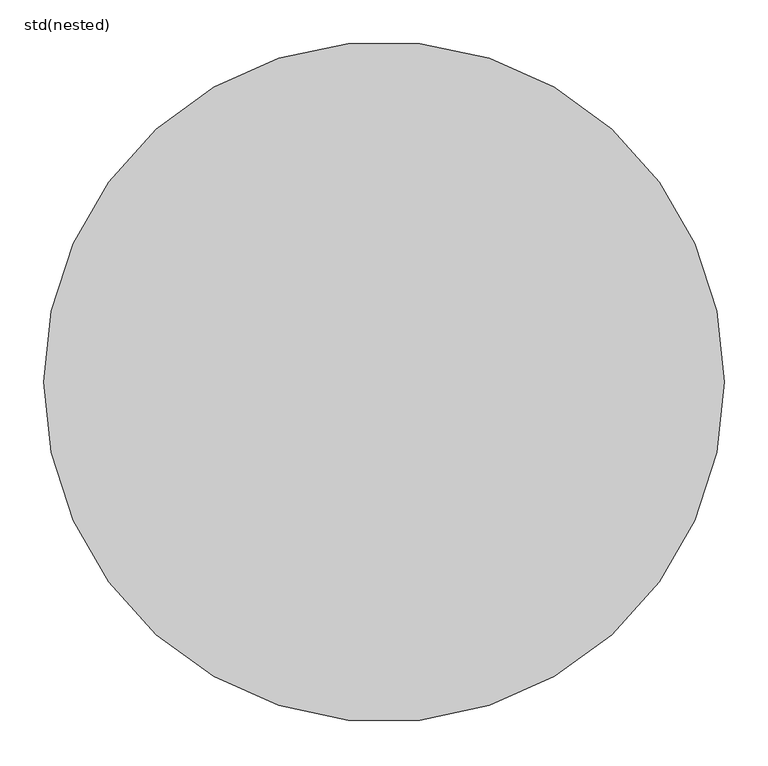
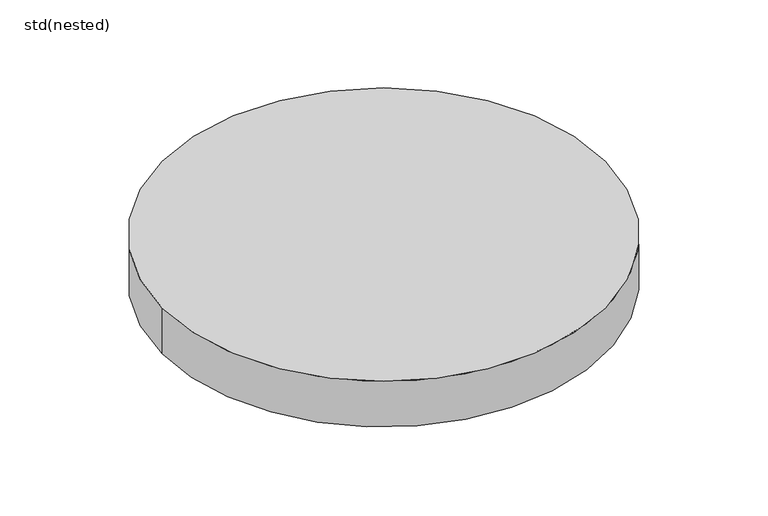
"""IFC4 building model written with IfcOpenShell, lengths in millimetres: unitary equipment geometry, ZZZ_do not use_ME_ST_WPB_manhole covers_ACO : std(nested)."""

import ifcopenshell
import ifcopenshell.guid

model = None  # the IFC model being written
_history = None  # IfcOwnerHistory: only IFC2X3 demands one
_inside = {}  # id of a spatial element -> (the spatial element, [elements in it])
_under = {}  # id of a project, library or spatial element -> (it, [spatial elements below it])
_declared = {}  # id of a project -> (the project, [libraries it declares])
_typed = {}  # id of a type object -> (the type object, [elements of that type])
_made_of = {}  # id of a material, layer set ... -> (it, [elements and type objects made of it])


def new_model(schema):
    """Start an empty IFC model of exactly this schema.

    Asked for "IFC4X3", IfcOpenShell would pick the latest addendum, in which some entities
    have other attributes; the version numbers below select the first issue.
    IFC2X3 requires an IfcOwnerHistory on every rooted entity: one is made here for all.
    """
    global model, _history
    if schema == "IFC4X3":
        model = ifcopenshell.file(schema_version=(4, 3, 0, 0))
    else:
        model = ifcopenshell.file(schema=schema)
    _inside.clear()
    _under.clear()
    _declared.clear()
    _typed.clear()
    _made_of.clear()
    _history = None
    if model.schema == "IFC2X3":
        org = make("IfcOrganization", Name="unknown")
        user = make(
            "IfcPersonAndOrganization",
            ThePerson=make("IfcPerson", FamilyName="unknown"),
            TheOrganization=org,
        )
        app = make(
            "IfcApplication",
            ApplicationDeveloper=org,
            Version="unknown",
            ApplicationFullName="unknown",
            ApplicationIdentifier="unknown",
        )
        _history = make(
            "IfcOwnerHistory",
            OwningUser=user,
            OwningApplication=app,
            ChangeAction="ADDED",
            CreationDate=0,
        )
    return model


def make(cls, **values):
    """One entity of the class cls with the attributes given. An attribute that is None is left unset."""
    return model.create_entity(
        cls, **{name: value for name, value in values.items() if value is not None}
    )


def rooted(cls, **values):
    """An entity with a GlobalId (a new one), such as an element, a storey or a relation."""
    return make(cls, GlobalId=ifcopenshell.guid.new(), OwnerHistory=_history, **values)


def si_unit(unit_type, name, prefix=None):
    """IfcSIUnit, for example si_unit("LENGTHUNIT", "METRE", prefix="MILLI")."""
    return make("IfcSIUnit", UnitType=unit_type, Prefix=prefix, Name=name)


def assignment(units):
    """IfcUnitAssignment: the units of a project."""
    return None if units is None else make("IfcUnitAssignment", Units=units)


def point(xyz):
    """IfcCartesianPoint."""
    return None if xyz is None else make("IfcCartesianPoint", Coordinates=xyz)


def direction(xyz):
    """IfcDirection."""
    return None if xyz is None else make("IfcDirection", DirectionRatios=xyz)


def frame(location, z_axis=None, x_axis=None):
    """IfcAxis2Placement3D, a coordinate frame: its origin and axes. An axis left out is left unset."""
    return make(
        "IfcAxis2Placement3D",
        Location=point(location),
        Axis=direction(z_axis),
        RefDirection=direction(x_axis),
    )


def frame_2d(location, x_axis=None):
    """IfcAxis2Placement2D, a coordinate frame in the plane: its origin and x axis."""
    return make(
        "IfcAxis2Placement2D", Location=point(location), RefDirection=direction(x_axis)
    )


def origin():
    """The frame at (0, 0, 0) with its axes left unset."""
    return frame((0.0, 0.0, 0.0))


def origin_2d():
    """The frame at (0, 0) in the plane with its x axis left unset."""
    return frame_2d((0.0, 0.0))


def place(relative_to, where):
    """IfcLocalPlacement: puts the frame where relative to a parent placement (None: the world)."""
    return make(
        "IfcLocalPlacement", PlacementRelTo=relative_to, RelativePlacement=where
    )


def context(
    kind, dimensions, precision=None, world=None, true_north=None, identifier=None
):
    """IfcGeometricRepresentationContext, for example the 3D "Model" context."""
    return make(
        "IfcGeometricRepresentationContext",
        ContextIdentifier=identifier,
        ContextType=kind,
        CoordinateSpaceDimension=dimensions,
        Precision=precision,
        WorldCoordinateSystem=world,
        TrueNorth=true_north,
    )


def project(units=None, contexts=None):
    """IfcProject with its units and contexts."""
    return rooted(
        "IfcProject",
        Name="project",
        RepresentationContexts=contexts,
        UnitsInContext=assignment(units),
    )


def spatial(cls, under=None, at=None, **own):
    """A site, building, storey or space (cls), placed at a placement, below another one or the project."""
    s = rooted(cls, ObjectPlacement=at, **own)
    if under is not None:
        _under.setdefault(under.id(), (under, []))[1].append(s)
    return s


def circle_curve(where, radius):
    """IfcCircle in the frame where."""
    return make("IfcCircle", Position=where, Radius=radius)


def trimmed(basis, trim1, trim2, sense, master):
    """IfcTrimmedCurve: the piece of a basis curve between two trims."""
    return make(
        "IfcTrimmedCurve",
        BasisCurve=basis,
        Trim1=trim1,
        Trim2=trim2,
        SenseAgreement=sense,
        MasterRepresentation=master,
    )


def segment(curve, same_sense, transition):
    """IfcCompositeCurveSegment."""
    return make(
        "IfcCompositeCurveSegment",
        Transition=transition,
        SameSense=same_sense,
        ParentCurve=curve,
    )


def composite_curve(segments, self_intersect=None):
    """IfcCompositeCurve: segments joined end to end."""
    return make("IfcCompositeCurve", Segments=segments, SelfIntersect=self_intersect)


def outline(outer, holes=None, kind="AREA"):
    """IfcArbitraryClosedProfileDef: a profile drawn as a closed curve; with holes, ...WithVoids."""
    if holes is None:
        return make("IfcArbitraryClosedProfileDef", ProfileType=kind, OuterCurve=outer)
    return make(
        "IfcArbitraryProfileDefWithVoids",
        ProfileType=kind,
        OuterCurve=outer,
        InnerCurves=holes,
    )


def extrude(swept, where, along, depth):
    """IfcExtrudedAreaSolid: the profile swept, set in the frame where, extruded along a direction by depth."""
    return make(
        "IfcExtrudedAreaSolid",
        SweptArea=swept,
        Position=where,
        ExtrudedDirection=direction(along),
        Depth=depth,
    )


def shape(context_of_items, identifier, shape_type, items):
    """IfcShapeRepresentation: the items that make up one representation, for example the "Body"."""
    return make(
        "IfcShapeRepresentation",
        ContextOfItems=context_of_items,
        RepresentationIdentifier=identifier,
        RepresentationType=shape_type,
        Items=items,
    )


def source(mapping_origin, context_of_items, identifier, shape_type, items):
    """IfcRepresentationMap: a shape defined once, which mapped items show again and again."""
    return make(
        "IfcRepresentationMap",
        MappingOrigin=mapping_origin,
        MappedRepresentation=shape(context_of_items, identifier, shape_type, items),
    )


def transform(
    local_origin,
    x_axis=None,
    y_axis=None,
    z_axis=None,
    scale=None,
    scale2=None,
    scale3=None,
    uniform=True,
):
    """IfcCartesianTransformationOperator3D, or its non-uniform kind. x_axis, y_axis, z_axis: its Axis1, 2, 3."""
    if uniform:
        return make(
            "IfcCartesianTransformationOperator3D",
            Axis1=direction(x_axis),
            Axis2=direction(y_axis),
            LocalOrigin=point(local_origin),
            Scale=scale,
            Axis3=direction(z_axis),
        )
    return make(
        "IfcCartesianTransformationOperator3DnonUniform",
        Axis1=direction(x_axis),
        Axis2=direction(y_axis),
        LocalOrigin=point(local_origin),
        Scale=scale,
        Axis3=direction(z_axis),
        Scale2=scale2,
        Scale3=scale3,
    )


def mapped(mapping_source, mapping_target):
    """IfcMappedItem: shows the shape of a source again, moved by a transform."""
    return make(
        "IfcMappedItem", MappingSource=mapping_source, MappingTarget=mapping_target
    )


def made_of(thing, what):
    """Note that an element or type object is made of a material, layer set ...; save() writes the relation."""
    if what is not None:
        _made_of.setdefault(what.id(), (what, []))[1].append(thing)
    return thing


def element(
    cls,
    number,
    at=None,
    inside=None,
    cuts=None,
    type_object=None,
    material=None,
    context=None,
    identifier="Body",
    shape_type=None,
    held_by="IfcProductDefinitionShape",
    body=None,
    shapes=None,
    **own,
):
    """One element of the class cls, such as IfcWall. Its Tag is "e" and its number.

    at: its placement. inside: the storey or other place that contains it. cuts: it is an
    opening in that element (IfcRelVoidsElement). A single representation is given by context,
    identifier, shape_type and body (its items); several are given by shapes. held_by: the class
    of the entity that holds the representations. save() writes the other relations.
    """
    e = rooted(cls, Tag="e%d" % number, ObjectPlacement=at, **own)
    if body is not None:
        shapes = [shape(context, identifier, shape_type, body)]
    if shapes is not None:
        e.Representation = make(held_by, Representations=shapes)
    if inside is not None:
        _inside.setdefault(inside.id(), (inside, []))[1].append(e)
    if cuts is not None:
        rooted(
            "IfcRelVoidsElement", RelatingBuildingElement=cuts, RelatedOpeningElement=e
        )
    if type_object is not None:
        _typed.setdefault(type_object.id(), (type_object, []))[1].append(e)
    return made_of(e, material)


def aggregate(whole, parts):
    """IfcRelAggregates: a whole, such as a stair, and the parts it consists of."""
    return rooted("IfcRelAggregates", RelatingObject=whole, RelatedObjects=parts)


def save(model, path):
    """Write the relations noted so far, then the file.

    IfcRelAggregates (storeys below a building ...), IfcRelContainedInSpatialStructure (elements
    in a storey), IfcRelDefinesByType, IfcRelAssociatesMaterial and IfcRelDeclares: one each for
    every whole, place, type object, material and project.
    """
    for whole, parts in _under.values():
        aggregate(whole, parts)
    for where, things in _inside.values():
        rooted(
            "IfcRelContainedInSpatialStructure",
            RelatedElements=things,
            RelatingStructure=where,
        )
    for kind, things in _typed.values():
        rooted("IfcRelDefinesByType", RelatedObjects=things, RelatingType=kind)
    for what, things in _made_of.values():
        rooted("IfcRelAssociatesMaterial", RelatedObjects=things, RelatingMaterial=what)
    for by, libraries in _declared.values():
        rooted("IfcRelDeclares", RelatingContext=by, RelatedDefinitions=libraries)
    model.write(path)


def std_nested_7e79f03b(model_context):
    return source(origin(), model_context, "Body", "SweptSolid", [
        extrude(outline(composite_curve([segment(trimmed(circle_curve(origin_2d(), 390.0), [point((-390.0, 0.0))], [point((390.0, 0.0))], False, "CARTESIAN"), True, "CONTINUOUS"), segment(trimmed(circle_curve(origin_2d(), 390.0), [point((390.0, 0.0))], [point((-390.0, 0.0))], False, "CARTESIAN"), True, "CONTINUOUS")], self_intersect=False)), frame((0.0, 0.0, -85.0), z_axis=(0.0, 0.0, 1.0), x_axis=(1.0, 0.0, 0.0)), (0.0, 0.0, 1.0), 85.0),
    ])


if __name__ == "__main__":
    model = new_model("IFC4")
    model_context = context("Model", 3, world=origin())
    ifc_project = project(units=[si_unit("LENGTHUNIT", "METRE", prefix="MILLI")], contexts=[model_context])
    site = spatial("IfcSite", under=ifc_project)
    building = spatial("IfcBuilding", under=site)
    placement = place(None, origin())
    std_nested_shape = std_nested_7e79f03b(model_context)
    element("IfcUnitaryEquipment", 1, ObjectType="ZZZ_do not use_ME_ST_WPB_manhole covers_ACO : std(nested)", at=placement, inside=building, context=model_context, shape_type="MappedRepresentation", body=[
        mapped(std_nested_shape, transform((0.0, 0.0, 0.0), x_axis=(1.0, 0.0, 0.0), y_axis=(0.0, 1.0, 0.0), z_axis=(0.0, 0.0, 1.0))),
    ])
    save(model, "model.ifc")
